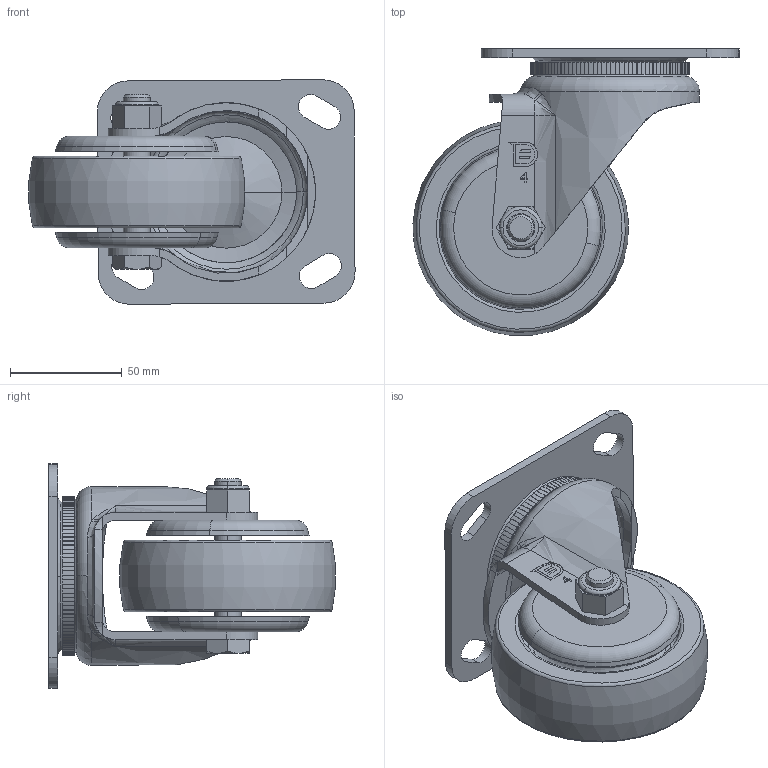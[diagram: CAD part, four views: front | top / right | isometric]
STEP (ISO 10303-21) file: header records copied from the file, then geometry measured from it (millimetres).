
FILE_DESCRIPTION (( 'STEP AP203' ), '1' );
FILE_NAME ('11510400072013.STEP', '2025-01-16T03:28:26', ( '20241006' ), ( '' ), 'SwSTEP 2.0', 'SolidWorks 2021', '' );
FILE_SCHEMA (( 'CONFIG_CONTROL_DESIGN' ));
Length unit declared in the file: millimetre
Products named in the file (10): 11510400072013(2)^11510400072013; 葩璃 (4) ^11510400072013(2)_11510400072013; 葩璃 (5) ^11510400072013(2)_11510400072013; ________(__73x__12^11510400072013(2)_11510400072013; 葩璃 (3) ^11510400072013(2)_11510400072013; 葩璃 (2) ^11510400072013(2)_11510400072013; ^11510400072013(2)_11510400072013; 4''''(?100x32-02孔-10L)本色MRC輪; 11510400072013; 葩璃 (6) ^11510400072013(2)_11510400072013
Assembly tree (10 placements, depth 3):
  11510400072013
    11510400072013(2)^11510400072013
      ^11510400072013(2)_11510400072013
      葩璃 (2) ^11510400072013(2)_11510400072013
      葩璃 (3) ^11510400072013(2)_11510400072013
      葩璃 (4) ^11510400072013(2)_11510400072013
      葩璃 (5) ^11510400072013(2)_11510400072013
      葩璃 (6) ^11510400072013(2)_11510400072013
      ________(__73x__12^11510400072013(2)_11510400072013  x2
    4''''(?100x32-02孔-10L)本色MRC輪
Bounding box: 145.96 x 128.31 x 100.48 mm (x, y, z)
Volume: 276800.3 mm3; surface area: 108915.2 mm2
Topology: 9 solids, 9 shells, 530 faces, 1409 edges, 908 vertices
Faces by surface type: plane 227, cylinder 184, bspline 44, cone 38, torus 37
Full cylindrical faces by diameter (mm): 11.636 x1, 71.758 x2
Entity records: 19041 total; most frequent: CARTESIAN_POINT 5250, ORIENTED_EDGE 2690, DIRECTION 2669, EDGE_CURVE 1345, AXIS2_PLACEMENT_3D 971, VERTEX_POINT 882, LINE 727, VECTOR 727
